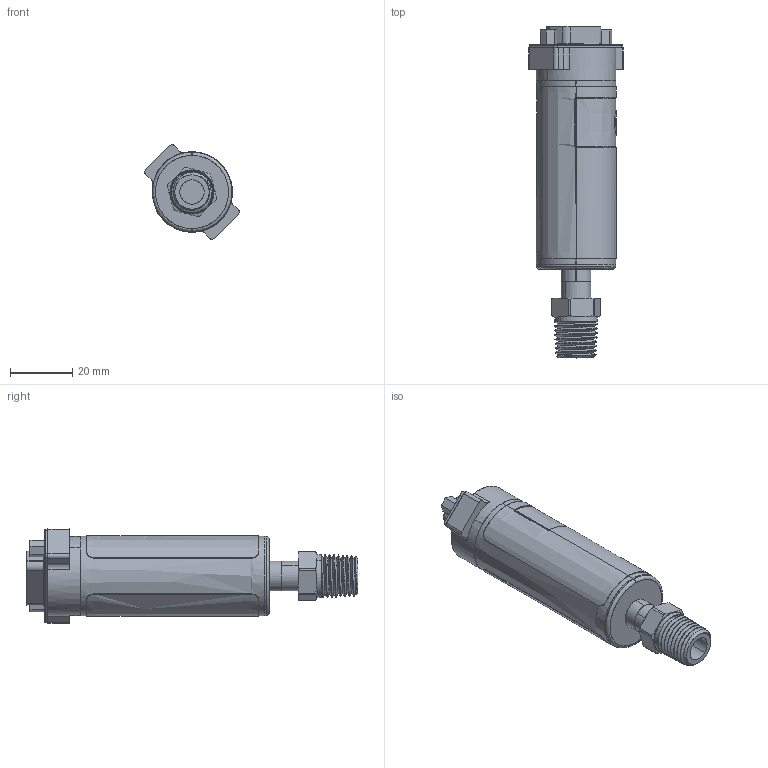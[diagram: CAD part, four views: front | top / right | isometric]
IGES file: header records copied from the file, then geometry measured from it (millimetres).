
Start section: SolidWorks IGES file using analytic representation for surfaces
Global section: file name: R:\Brooks Instrument\25-0024 SSII CAD File Generation\Client Files\SSII CAD Models for Website\CAD for Brooks Website\Example\GSD\GSD-XXXXXX-D-XXX-NT\IGES\GSD-XXXXXX-D-XXX-NT.IGS; native system: SolidWorks 2023; preprocessor: SolidWorks 2023; author: CYatsko; date: 250625.112201; units: inch
Bounding box: 30.23 x 106.28 x 30.23 mm (x, y, z)
Surface area: 16217.5 mm2 (no closed solid volume)
Topology: 0 solids, 0 shells, 372 faces, 4198 edges, 4134 vertices
Faces by surface type: revolution 198, bspline 174
